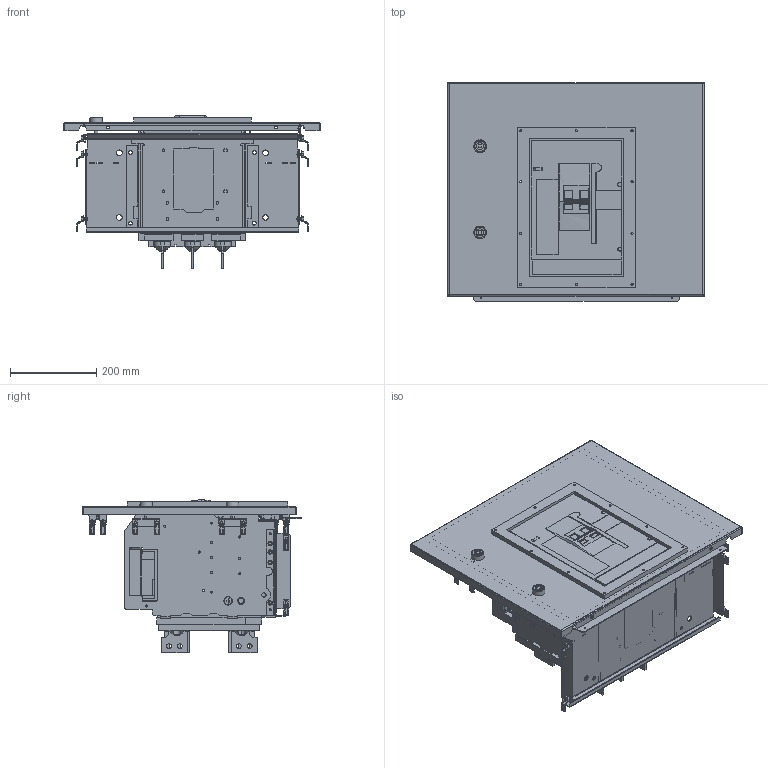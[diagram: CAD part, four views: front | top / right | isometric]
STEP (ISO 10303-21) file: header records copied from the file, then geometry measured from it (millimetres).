
FILE_DESCRIPTION(('CAx-IF Rec.Pracs.---Model Styling and Organization---1.2---2011-12-15','CAx-IF Rec.Pracs.---Geometric and Assembly Validation Properties---4.1---2014-06-16','CAx-IF Rec.Pracs.---PMI Polyline Presentation---2.0---2013-05-24'),'2;1');
FILE_NAME('R5PKEB7V61521.stp','2021-07-29T02:24:21+03:00',(''),(''),'STEP Interface 4.4 by CT CoreTechnologie','3D_Evolution4.4 by CT CoreTechnologie','');
FILE_SCHEMA(('AUTOMOTIVE_DESIGN { 1 0 10303 214 1 1 1 1 }'));
Length unit declared in the file: millimetre
Products named in the file (1): R5PKEB7V61521
Bounding box: 594 x 507.5 x 355 mm (x, y, z)
Surface area: 2925956.3 mm2 (no closed solid volume)
Topology: 0 solids, 109 shells, 4481 faces, 12037 edges, 7749 vertices
Faces by surface type: plane 2513, cylinder 1496, bspline 472
Full cylindrical faces by diameter (mm): 1 x1
Entity records: 151407 total; most frequent: CARTESIAN_POINT 39260, ORIENTED_EDGE 23814, DIRECTION 22712, EDGE_CURVE 11913, VECTOR 8058, LINE 8058, VERTEX_POINT 7749, AXIS2_PLACEMENT_3D 7327
